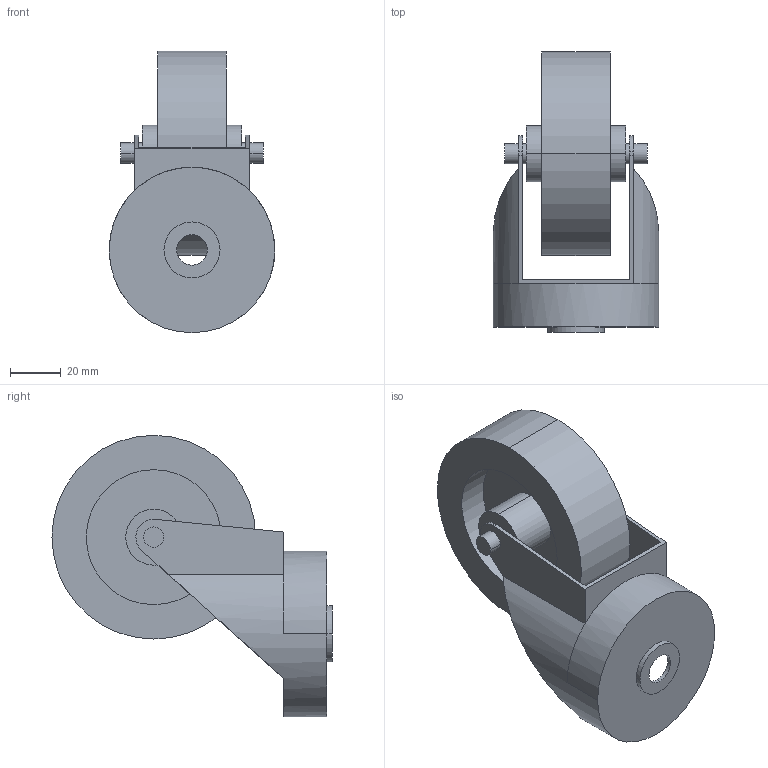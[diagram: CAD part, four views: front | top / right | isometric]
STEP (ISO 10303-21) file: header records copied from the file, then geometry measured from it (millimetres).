
FILE_DESCRIPTION((''),'2;1');
FILE_NAME('RUP080N_ASM','2002-12-27T',('Lipro doo'),('Lipro d.o.o.'),'PRO/ENGINEER BY PARAMETRIC TECHNOLOGY CORPORATION, 2001150','PRO/ENGINEER BY PARAMETRIC TECHNOLOGY CORPORATION, 2001150','');
FILE_SCHEMA(('CONFIG_CONTROL_DESIGN'));
Length unit declared in the file: millimetre
Products named in the file (3): RUP080_2; RUP080_1; RUP080N_ASM
Assembly tree (2 placements, depth 2):
  RUP080N_ASM
    RUP080_2
    RUP080_1
Bounding box: 65 x 110 x 110.5 mm (x, y, z)
Volume: 113781.9 mm3; surface area: 46455.5 mm2
Topology: 2 solids, 2 shells, 54 faces, 127 edges, 85 vertices
Faces by surface type: cylinder 30, plane 24
Entity records: 1709 total; most frequent: CARTESIAN_POINT 305, DIRECTION 302, ORIENTED_EDGE 254, EDGE_CURVE 127, AXIS2_PLACEMENT_3D 122, VERTEX_POINT 85, EDGE_LOOP 68, CIRCLE 63
